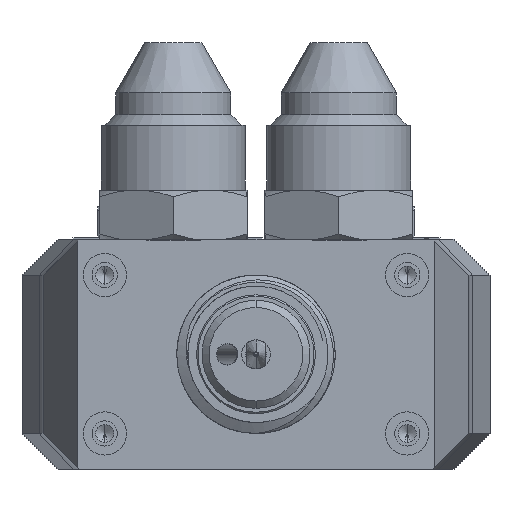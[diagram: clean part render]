
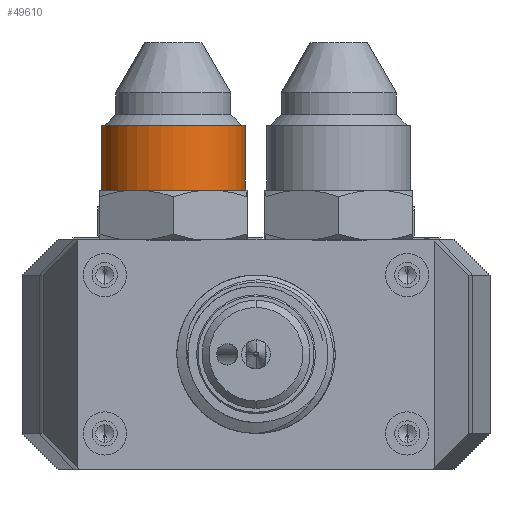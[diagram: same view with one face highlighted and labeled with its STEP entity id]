
A CAD part, front view. The second image highlights one B-rep face of the part: STEP entity #49610.
In plain terms, the highlighted cylindrical face has radius 10 mm (diameter 20 mm), a partial arc.
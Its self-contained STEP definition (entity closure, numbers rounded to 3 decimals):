
#1805 = CARTESIAN_POINT ( 'NONE',  ( -90.366, -146.433, 1052.575 ) ) ;
#4274 = CARTESIAN_POINT ( 'NONE',  ( -110.366, -146.433, 1052.575 ) ) ;
#4887 = AXIS2_PLACEMENT_3D ( 'NONE', #43049, #20234, #42458 ) ;
#6569 = ORIENTED_EDGE ( 'NONE', *, *, #54207, .F. ) ;
#8640 = CARTESIAN_POINT ( 'NONE',  ( -90.366, -146.433, 1030.303 ) ) ;
#12323 = VERTEX_POINT ( 'NONE', #13336 ) ;
#13108 = CIRCLE ( 'NONE', #14103, 10. ) ;
#13336 = CARTESIAN_POINT ( 'NONE',  ( -90.366, -146.433, 1021.303 ) ) ;
#14103 = AXIS2_PLACEMENT_3D ( 'NONE', #29951, #42262, #37747 ) ;
#14710 = DIRECTION ( 'NONE',  ( 0., 0., 1. ) ) ;
#16330 = CYLINDRICAL_SURFACE ( 'NONE', #4887, 10. ) ;
#20203 = DIRECTION ( 'NONE',  ( 0., 0., -1. ) ) ;
#20234 = DIRECTION ( 'NONE',  ( 0., 0., 1. ) ) ;
#20530 = VERTEX_POINT ( 'NONE', #21190 ) ;
#21190 = CARTESIAN_POINT ( 'NONE',  ( -110.366, -146.433, 1030.303 ) ) ;
#21765 = CARTESIAN_POINT ( 'NONE',  ( -110.366, -146.433, 1021.303 ) ) ;
#24555 = EDGE_CURVE ( 'NONE', #33071, #12323, #13108, .T. ) ;
#28614 = ORIENTED_EDGE ( 'NONE', *, *, #45908, .T. ) ;
#28649 = CARTESIAN_POINT ( 'NONE',  ( -100.366, -146.433, 1030.303 ) ) ;
#29951 = CARTESIAN_POINT ( 'NONE',  ( -100.366, -146.433, 1021.303 ) ) ;
#33071 = VERTEX_POINT ( 'NONE', #21765 ) ;
#33911 = LINE ( 'NONE', #4274, #54524 ) ;
#37747 = DIRECTION ( 'NONE',  ( 1., 0., 0. ) ) ;
#40541 = EDGE_CURVE ( 'NONE', #12323, #40840, #43221, .T. ) ;
#40840 = VERTEX_POINT ( 'NONE', #8640 ) ;
#42262 = DIRECTION ( 'NONE',  ( 0., 0., 1. ) ) ;
#42458 = DIRECTION ( 'NONE',  ( 1., 0., 0. ) ) ;
#43049 = CARTESIAN_POINT ( 'NONE',  ( -100.366, -146.433, 1052.575 ) ) ;
#43221 = LINE ( 'NONE', #1805, #47555 ) ;
#45907 = AXIS2_PLACEMENT_3D ( 'NONE', #28649, #20203, #46628 ) ;
#45908 = EDGE_CURVE ( 'NONE', #40840, #20530, #52660, .T. ) ;
#46628 = DIRECTION ( 'NONE',  ( 1., 0., 0. ) ) ;
#47431 = DIRECTION ( 'NONE',  ( 0., 0., 1. ) ) ;
#47555 = VECTOR ( 'NONE', #14710, 1000. ) ;
#47921 = EDGE_LOOP ( 'NONE', ( #6569, #56659, #53747, #28614 ) ) ;
#49610 = ADVANCED_FACE ( 'NONE', ( #52657 ), #16330, .T. ) ;
#52657 = FACE_OUTER_BOUND ( 'NONE', #47921, .T. ) ;
#52660 = CIRCLE ( 'NONE', #45907, 10. ) ;
#53747 = ORIENTED_EDGE ( 'NONE', *, *, #40541, .T. ) ;
#54207 = EDGE_CURVE ( 'NONE', #33071, #20530, #33911, .T. ) ;
#54524 = VECTOR ( 'NONE', #47431, 1000. ) ;
#56659 = ORIENTED_EDGE ( 'NONE', *, *, #24555, .T. ) ;
